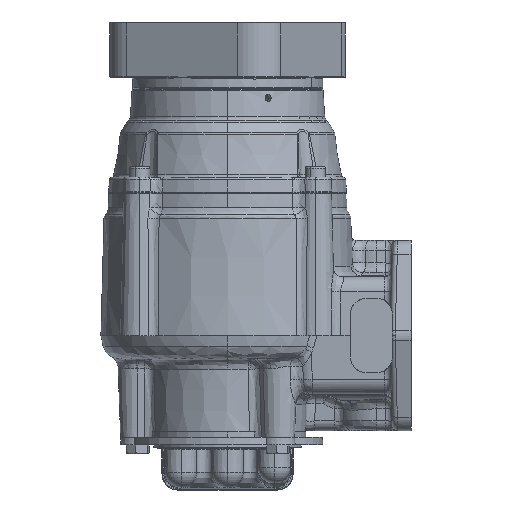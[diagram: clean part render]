
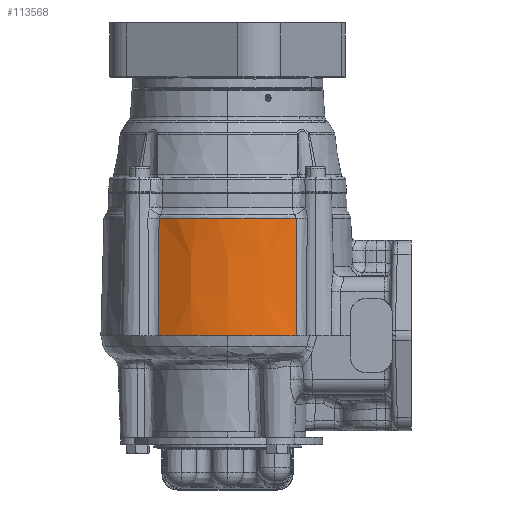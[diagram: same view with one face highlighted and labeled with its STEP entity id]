
A CAD part, left-side view. The second image highlights one B-rep face of the part: STEP entity #113568.
In plain terms, the highlighted conical face has half-angle 1.5 degrees and reference radius 76.073 mm.
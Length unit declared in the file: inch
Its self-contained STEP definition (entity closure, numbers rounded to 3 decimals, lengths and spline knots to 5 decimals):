
#1595 = EDGE_CURVE ( 'NONE', #28545, #62088, #6698, .T. ) ;
#1998 = CIRCLE ( 'NONE', #31388, 2.995 ) ;
#3851 = CIRCLE ( 'NONE', #101646, 2.92225 ) ;
#6698 = B_SPLINE_CURVE_WITH_KNOTS ( 'NONE', 3,
 ( #53775, #64181, #83182, #63561 ),
 .UNSPECIFIED., .F., .F.,
 ( 4, 4 ),
 ( 0., 1. ),
 .UNSPECIFIED. ) ;
#9201 = EDGE_CURVE ( 'NONE', #92739, #37813, #24805, .T. ) ;
#10478 = CARTESIAN_POINT ( 'NONE',  ( -0.9685, 3.51989, 0. ) ) ;
#14070 = CARTESIAN_POINT ( 'NONE',  ( -0.9685, 3.51989, 0. ) ) ;
#14670 = FACE_OUTER_BOUND ( 'NONE', #42330, .T. ) ;
#15104 = CARTESIAN_POINT ( 'NONE',  ( -3.4002, 5.14049, 2.77827 ) ) ;
#19806 = DIRECTION ( 'NONE',  ( 0., 0., -1. ) ) ;
#20950 = CARTESIAN_POINT ( 'NONE',  ( -3.4002, 5.14049, 2.77827 ) ) ;
#24200 = AXIS2_PLACEMENT_3D ( 'NONE', #14070, #52036, #98040 ) ;
#24805 = B_SPLINE_CURVE_WITH_KNOTS ( 'NONE', 3,
 ( #20950, #39312, #114068, #48516 ),
 .UNSPECIFIED., .F., .F.,
 ( 4, 4 ),
 ( 0., 1. ),
 .UNSPECIFIED. ) ;
#25606 = CIRCLE ( 'NONE', #94099, 2.995 ) ;
#26396 = CARTESIAN_POINT ( 'NONE',  ( -3.4002, 1.89928, 2.77827 ) ) ;
#28545 = VERTEX_POINT ( 'NONE', #82657 ) ;
#29477 = DIRECTION ( 'NONE',  ( 0., 0., -1. ) ) ;
#31388 = AXIS2_PLACEMENT_3D ( 'NONE', #10478, #29477, #47258 ) ;
#37813 = VERTEX_POINT ( 'NONE', #45748 ) ;
#38166 = DIRECTION ( 'NONE',  ( 1., 0., 0. ) ) ;
#39312 = CARTESIAN_POINT ( 'NONE',  ( -3.42696, 5.14244, 1.88658 ) ) ;
#42330 = EDGE_LOOP ( 'NONE', ( #60865, #112930, #119323, #69742, #85690 ) ) ;
#43636 = EDGE_CURVE ( 'NONE', #51989, #37813, #1998, .T. ) ;
#45748 = CARTESIAN_POINT ( 'NONE',  ( -3.48267, 5.14745, 0. ) ) ;
#46162 = CARTESIAN_POINT ( 'NONE',  ( -0.9685, 3.51989, 0. ) ) ;
#47258 = DIRECTION ( 'NONE',  ( 1., 0., 0. ) ) ;
#48516 = CARTESIAN_POINT ( 'NONE',  ( -3.48267, 5.14745, 0. ) ) ;
#50684 = CARTESIAN_POINT ( 'NONE',  ( -3.9635, 3.51989, 0. ) ) ;
#51989 = VERTEX_POINT ( 'NONE', #50684 ) ;
#52036 = DIRECTION ( 'NONE',  ( 0., 0., -1. ) ) ;
#53705 = DIRECTION ( 'NONE',  ( -1., 0., 0. ) ) ;
#53775 = CARTESIAN_POINT ( 'NONE',  ( -3.48267, 1.89232, 0. ) ) ;
#56580 = DIRECTION ( 'NONE',  ( 0., 0., -1. ) ) ;
#60865 = ORIENTED_EDGE ( 'NONE', *, *, #108900, .F. ) ;
#62088 = VERTEX_POINT ( 'NONE', #26396 ) ;
#63561 = CARTESIAN_POINT ( 'NONE',  ( -3.4002, 1.89928, 2.77827 ) ) ;
#64181 = CARTESIAN_POINT ( 'NONE',  ( -3.45445, 1.89501, 0.96047 ) ) ;
#69742 = ORIENTED_EDGE ( 'NONE', *, *, #9201, .T. ) ;
#81928 = CARTESIAN_POINT ( 'NONE',  ( -0.9685, 3.51989, 2.77827 ) ) ;
#82657 = CARTESIAN_POINT ( 'NONE',  ( -3.48267, 1.89232, 0. ) ) ;
#83182 = CARTESIAN_POINT ( 'NONE',  ( -3.42697, 1.89734, 1.88656 ) ) ;
#85690 = ORIENTED_EDGE ( 'NONE', *, *, #43636, .F. ) ;
#92739 = VERTEX_POINT ( 'NONE', #15104 ) ;
#94099 = AXIS2_PLACEMENT_3D ( 'NONE', #46162, #19806, #38166 ) ;
#98040 = DIRECTION ( 'NONE',  ( 0., 1., 0. ) ) ;
#101646 = AXIS2_PLACEMENT_3D ( 'NONE', #81928, #56580, #53705 ) ;
#103762 = EDGE_CURVE ( 'NONE', #62088, #92739, #3851, .T. ) ;
#108900 = EDGE_CURVE ( 'NONE', #28545, #51989, #25606, .T. ) ;
#112930 = ORIENTED_EDGE ( 'NONE', *, *, #1595, .T. ) ;
#113568 = ADVANCED_FACE ( 'NONE', ( #14670 ), #120127, .T. ) ;
#114068 = CARTESIAN_POINT ( 'NONE',  ( -3.45445, 5.14477, 0.96049 ) ) ;
#119323 = ORIENTED_EDGE ( 'NONE', *, *, #103762, .T. ) ;
#120127 = CONICAL_SURFACE ( 'NONE', #24200, 2.995, 0.026 ) ;
